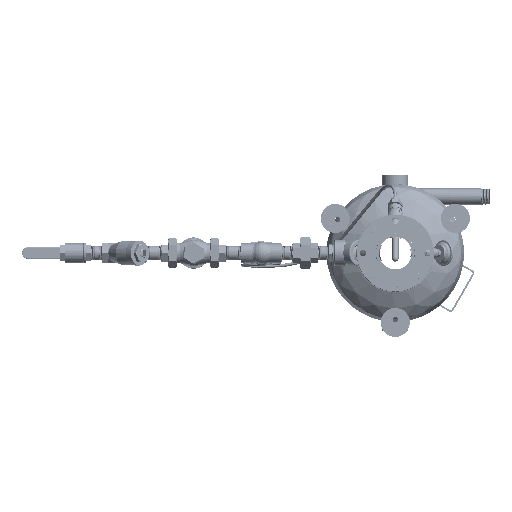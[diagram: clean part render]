
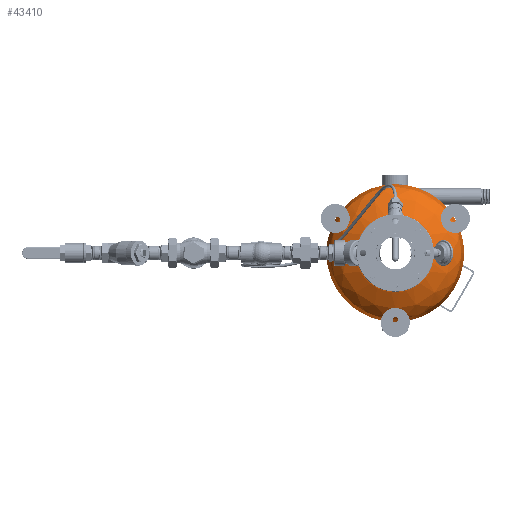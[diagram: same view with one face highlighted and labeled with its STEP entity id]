
A CAD part, front view. The second image highlights one B-rep face of the part: STEP entity #43410.
In plain terms, the highlighted free-form (B-spline) face has degree [2, 2] with [3, 9] control points.
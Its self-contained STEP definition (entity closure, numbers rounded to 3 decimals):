
#734=ELLIPSE('',#46684,8.,4.);
#792=(
BOUNDED_SURFACE()
B_SPLINE_SURFACE(2,2,((#81675,#81676,#81677,#81678,#81679,#81680,#81681,
#81682,#81683),(#81684,#81685,#81686,#81687,#81688,#81689,#81690,#81691,
#81692),(#81693,#81694,#81695,#81696,#81697,#81698,#81699,#81700,#81701)),
 .UNSPECIFIED.,.F.,.T.,.F.)
B_SPLINE_SURFACE_WITH_KNOTS((3,3),(3,2,2,2,3),(0.,1.571),
(0.,1.571,3.142,4.712,6.283),
 .UNSPECIFIED.)
GEOMETRIC_REPRESENTATION_ITEM()
RATIONAL_B_SPLINE_SURFACE(((1.,0.707,1.,0.707,1.,
0.707,1.,0.707,1.),(0.707,0.5,0.707,
0.5,0.707,0.5,0.707,0.5,0.707),(1.,
0.707,1.,0.707,1.,0.707,1.,0.707,
1.)))
REPRESENTATION_ITEM('')
SURFACE()
);
#4634=CIRCLE('',#46685,8.);
#4635=CIRCLE('',#46686,8.);
#6665=FACE_OUTER_BOUND('',#9278,.T.);
#9278=EDGE_LOOP('',(#29760,#29761,#29762,#29763,#29764,#29765));
#16692=B_SPLINE_CURVE_WITH_KNOTS('',3,(#81467,#81468,#81469,#81470,#81471,
#81472,#81473,#81474,#81475,#81476,#81477,#81478,#81479,#81480,#81481,#81482,
#81483,#81484,#81485,#81486),.UNSPECIFIED.,.F.,.F.,(4,2,2,2,2,2,2,2,2,4),
(-27.016,-26.79,-24.558,-22.325,
-20.093,-17.86,-15.628,-13.395,
-11.163,-9.005),.UNSPECIFIED.);
#16693=B_SPLINE_CURVE_WITH_KNOTS('',3,(#81487,#81488,#81489,#81490,#81491,
#81492,#81493,#81494,#81495,#81496,#81497,#81498,#81499,#81500,#81501,#81502,
#81503,#81504,#81505,#81506,#81507,#81508,#81509),.UNSPECIFIED.,.F.,.F.,
(4,2,2,2,2,3,2,2,2,2,4),(-9.005,-8.93,-6.698,
-4.465,-2.233,0.,1.264,2.528,
4.761,6.993,9.),.UNSPECIFIED.);
#18646=VERTEX_POINT('',#81464);
#18647=VERTEX_POINT('',#81466);
#18651=VERTEX_POINT('',#81702);
#18652=VERTEX_POINT('',#81704);
#22930=EDGE_CURVE('',#18647,#18646,#16692,.T.);
#22931=EDGE_CURVE('',#18646,#18647,#16693,.T.);
#22937=EDGE_CURVE('',#18651,#18647,#734,.T.);
#22938=EDGE_CURVE('',#18652,#18651,#4634,.T.);
#22939=EDGE_CURVE('',#18651,#18652,#4635,.T.);
#29760=ORIENTED_EDGE('',*,*,#22930,.T.);
#29761=ORIENTED_EDGE('',*,*,#22931,.T.);
#29762=ORIENTED_EDGE('',*,*,#22937,.F.);
#29763=ORIENTED_EDGE('',*,*,#22938,.F.);
#29764=ORIENTED_EDGE('',*,*,#22939,.F.);
#29765=ORIENTED_EDGE('',*,*,#22937,.T.);
#43410=ADVANCED_FACE('',(#6665),#792,.T.);
#46684=AXIS2_PLACEMENT_3D('',#81703,#51326,#51327);
#46685=AXIS2_PLACEMENT_3D('',#81705,#51328,#51329);
#46686=AXIS2_PLACEMENT_3D('',#81706,#51330,#51331);
#51326=DIRECTION('center_axis',(0.,0.,1.));
#51327=DIRECTION('ref_axis',(1.,0.,0.));
#51328=DIRECTION('center_axis',(0.,-1.,0.));
#51329=DIRECTION('ref_axis',(1.,0.,0.));
#51330=DIRECTION('center_axis',(0.,-1.,0.));
#51331=DIRECTION('ref_axis',(1.,0.,0.));
#81464=CARTESIAN_POINT('',(-2.25,5.839,0.));
#81466=CARTESIAN_POINT('',(2.25,5.839,0.));
#81467=CARTESIAN_POINT('Ctrl Pts',(2.25,5.839,0.));
#81468=CARTESIAN_POINT('Ctrl Pts',(2.25,5.839,0.03));
#81469=CARTESIAN_POINT('Ctrl Pts',(2.249,5.839,0.059));
#81470=CARTESIAN_POINT('Ctrl Pts',(2.237,5.839,0.381));
#81471=CARTESIAN_POINT('Ctrl Pts',(2.168,5.839,0.669));
#81472=CARTESIAN_POINT('Ctrl Pts',(1.924,5.839,1.202));
#81473=CARTESIAN_POINT('Ctrl Pts',(1.752,5.839,1.442));
#81474=CARTESIAN_POINT('Ctrl Pts',(1.324,5.839,1.843));
#81475=CARTESIAN_POINT('Ctrl Pts',(1.073,5.839,1.999));
#81476=CARTESIAN_POINT('Ctrl Pts',(0.525,5.839,2.207));
#81477=CARTESIAN_POINT('Ctrl Pts',(0.234,5.839,2.257));
#81478=CARTESIAN_POINT('Ctrl Pts',(-0.352,5.839,
2.242));
#81479=CARTESIAN_POINT('Ctrl Pts',(-0.641,5.839,
2.177));
#81480=CARTESIAN_POINT('Ctrl Pts',(-1.177,5.839,1.94));
#81481=CARTESIAN_POINT('Ctrl Pts',(-1.419,5.839,1.771));
#81482=CARTESIAN_POINT('Ctrl Pts',(-1.825,5.839,1.348));
#81483=CARTESIAN_POINT('Ctrl Pts',(-1.985,5.839,1.099));
#81484=CARTESIAN_POINT('Ctrl Pts',(-2.197,5.839,0.563));
#81485=CARTESIAN_POINT('Ctrl Pts',(-2.25,5.839,0.283));
#81486=CARTESIAN_POINT('Ctrl Pts',(-2.25,5.839,0.));
#81487=CARTESIAN_POINT('Ctrl Pts',(-2.25,5.839,0.));
#81488=CARTESIAN_POINT('Ctrl Pts',(-2.25,5.839,-0.01));
#81489=CARTESIAN_POINT('Ctrl Pts',(-2.25,5.839,-0.02));
#81490=CARTESIAN_POINT('Ctrl Pts',(-2.246,5.839,-0.322));
#81491=CARTESIAN_POINT('Ctrl Pts',(-2.185,5.839,-0.612));
#81492=CARTESIAN_POINT('Ctrl Pts',(-1.955,5.839,-1.151));
#81493=CARTESIAN_POINT('Ctrl Pts',(-1.789,5.839,-1.396));
#81494=CARTESIAN_POINT('Ctrl Pts',(-1.372,5.839,-1.807));
#81495=CARTESIAN_POINT('Ctrl Pts',(-1.125,5.839,-1.97));
#81496=CARTESIAN_POINT('Ctrl Pts',(-0.583,5.839,
-2.193));
#81497=CARTESIAN_POINT('Ctrl Pts',(-0.293,5.839,
-2.25));
#81498=CARTESIAN_POINT('Ctrl Pts',(0.,5.839,
-2.25));
#81499=CARTESIAN_POINT('Ctrl Pts',(0.166,5.839,-2.25));
#81500=CARTESIAN_POINT('Ctrl Pts',(0.331,5.839,-2.232));
#81501=CARTESIAN_POINT('Ctrl Pts',(0.655,5.839,-2.159));
#81502=CARTESIAN_POINT('Ctrl Pts',(0.812,5.839,-2.105));
#81503=CARTESIAN_POINT('Ctrl Pts',(1.227,5.839,-1.909));
#81504=CARTESIAN_POINT('Ctrl Pts',(1.465,5.839,-1.733));
#81505=CARTESIAN_POINT('Ctrl Pts',(1.86,5.839,-1.3));
#81506=CARTESIAN_POINT('Ctrl Pts',(2.013,5.839,-1.047));
#81507=CARTESIAN_POINT('Ctrl Pts',(2.204,5.839,-0.524));
#81508=CARTESIAN_POINT('Ctrl Pts',(2.25,5.839,-0.263));
#81509=CARTESIAN_POINT('Ctrl Pts',(2.25,5.839,0.));
#81675=CARTESIAN_POINT('Ctrl Pts',(8.,2.,0.));
#81676=CARTESIAN_POINT('Ctrl Pts',(8.,2.,8.));
#81677=CARTESIAN_POINT('Ctrl Pts',(0.,2.,8.));
#81678=CARTESIAN_POINT('Ctrl Pts',(-8.,2.,8.));
#81679=CARTESIAN_POINT('Ctrl Pts',(-8.,2.,0.));
#81680=CARTESIAN_POINT('Ctrl Pts',(-8.,2.,-8.));
#81681=CARTESIAN_POINT('Ctrl Pts',(0.,2.,-8.));
#81682=CARTESIAN_POINT('Ctrl Pts',(8.,2.,-8.));
#81683=CARTESIAN_POINT('Ctrl Pts',(8.,2.,0.));
#81684=CARTESIAN_POINT('Ctrl Pts',(8.,6.,0.));
#81685=CARTESIAN_POINT('Ctrl Pts',(8.,6.,8.));
#81686=CARTESIAN_POINT('Ctrl Pts',(0.,6.,8.));
#81687=CARTESIAN_POINT('Ctrl Pts',(-8.,6.,8.));
#81688=CARTESIAN_POINT('Ctrl Pts',(-8.,6.,0.));
#81689=CARTESIAN_POINT('Ctrl Pts',(-8.,6.,-8.));
#81690=CARTESIAN_POINT('Ctrl Pts',(0.,6.,-8.));
#81691=CARTESIAN_POINT('Ctrl Pts',(8.,6.,-8.));
#81692=CARTESIAN_POINT('Ctrl Pts',(8.,6.,0.));
#81693=CARTESIAN_POINT('Ctrl Pts',(0.,6.,0.));
#81694=CARTESIAN_POINT('Ctrl Pts',(0.,6.,0.));
#81695=CARTESIAN_POINT('Ctrl Pts',(0.,6.,0.));
#81696=CARTESIAN_POINT('Ctrl Pts',(0.,6.,0.));
#81697=CARTESIAN_POINT('Ctrl Pts',(0.,6.,0.));
#81698=CARTESIAN_POINT('Ctrl Pts',(0.,6.,0.));
#81699=CARTESIAN_POINT('Ctrl Pts',(0.,6.,0.));
#81700=CARTESIAN_POINT('Ctrl Pts',(0.,6.,0.));
#81701=CARTESIAN_POINT('Ctrl Pts',(0.,6.,0.));
#81702=CARTESIAN_POINT('',(8.,2.,0.));
#81703=CARTESIAN_POINT('Origin',(0.,2.,0.));
#81704=CARTESIAN_POINT('',(-8.,2.,0.));
#81705=CARTESIAN_POINT('Origin',(0.,2.,0.));
#81706=CARTESIAN_POINT('Origin',(0.,2.,0.));
